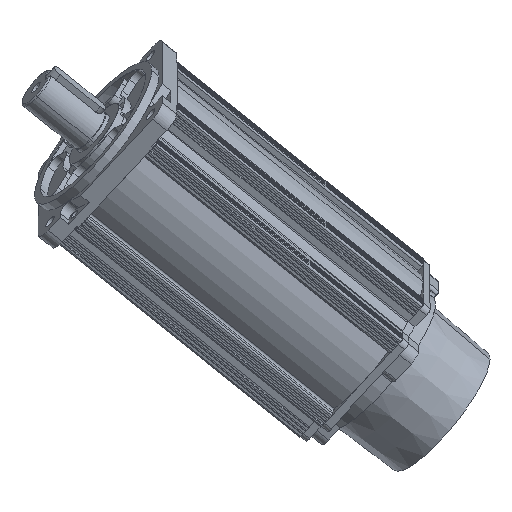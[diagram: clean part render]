
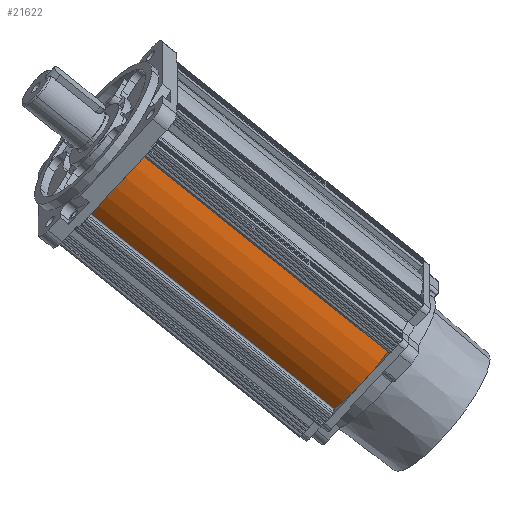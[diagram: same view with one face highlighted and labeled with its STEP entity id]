
A CAD part, top view. The second image highlights one B-rep face of the part: STEP entity #21622.
In plain terms, the highlighted cylindrical face has radius 50 mm (diameter 100 mm), a partial arc.
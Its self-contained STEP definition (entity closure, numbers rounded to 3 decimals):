
#462 = CARTESIAN_POINT ( 'NONE',  ( 255.767, -138.326, 45.914 ) ) ;
#1652 = CIRCLE ( 'NONE', #15283, 50. ) ;
#1714 = AXIS2_PLACEMENT_3D ( 'NONE', #23681, #14072, #23772 ) ;
#1747 = ORIENTED_EDGE ( 'NONE', *, *, #10409, .F. ) ;
#2969 = FACE_OUTER_BOUND ( 'NONE', #14011, .T. ) ;
#4545 = CIRCLE ( 'NONE', #5247, 50. ) ;
#4608 = CARTESIAN_POINT ( 'NONE',  ( 139.867, -1.964, 53.445 ) ) ;
#5171 = VERTEX_POINT ( 'NONE', #18399 ) ;
#5247 = AXIS2_PLACEMENT_3D ( 'NONE', #15946, #8585, #16201 ) ;
#6848 = ORIENTED_EDGE ( 'NONE', *, *, #20031, .T. ) ;
#7122 = LINE ( 'NONE', #462, #18383 ) ;
#7160 = CARTESIAN_POINT ( 'NONE',  ( 284.007, -108.188, 58.365 ) ) ;
#8050 = CYLINDRICAL_SURFACE ( 'NONE', #1714, 50. ) ;
#8442 = DIRECTION ( 'NONE',  ( 0.655, 0.699, 0.289 ) ) ;
#8517 = CARTESIAN_POINT ( 'NONE',  ( 284.007, -108.188, 58.365 ) ) ;
#8585 = DIRECTION ( 'NONE',  ( -0.756, 0.605, 0.25 ) ) ;
#9474 = EDGE_CURVE ( 'NONE', #24400, #5171, #7122, .T. ) ;
#9596 = VERTEX_POINT ( 'NONE', #7160 ) ;
#10409 = EDGE_CURVE ( 'NONE', #24400, #15184, #1652, .T. ) ;
#13932 = DIRECTION ( 'NONE',  ( -0.756, 0.605, 0.25 ) ) ;
#14011 = EDGE_LOOP ( 'NONE', ( #6848, #21985, #1747, #16419 ) ) ;
#14072 = DIRECTION ( 'NONE',  ( -0.756, 0.605, 0.25 ) ) ;
#15184 = VERTEX_POINT ( 'NONE', #16064 ) ;
#15283 = AXIS2_PLACEMENT_3D ( 'NONE', #4608, #17558, #8442 ) ;
#15946 = CARTESIAN_POINT ( 'NONE',  ( 269.887, -106.032, 10.449 ) ) ;
#16064 = CARTESIAN_POINT ( 'NONE',  ( 153.987, -4.12, 101.362 ) ) ;
#16201 = DIRECTION ( 'NONE',  ( 0.655, 0.699, 0.289 ) ) ;
#16419 = ORIENTED_EDGE ( 'NONE', *, *, #9474, .T. ) ;
#17558 = DIRECTION ( 'NONE',  ( -0.756, 0.605, 0.25 ) ) ;
#18154 = CARTESIAN_POINT ( 'NONE',  ( 125.747, -34.257, 88.91 ) ) ;
#18383 = VECTOR ( 'NONE', #19589, 1000. ) ;
#18399 = CARTESIAN_POINT ( 'NONE',  ( 255.767, -138.326, 45.914 ) ) ;
#18574 = LINE ( 'NONE', #8517, #18853 ) ;
#18853 = VECTOR ( 'NONE', #13932, 1000. ) ;
#18859 = EDGE_CURVE ( 'NONE', #9596, #15184, #18574, .T. ) ;
#19589 = DIRECTION ( 'NONE',  ( 0.756, -0.605, -0.25 ) ) ;
#20031 = EDGE_CURVE ( 'NONE', #5171, #9596, #4545, .T. ) ;
#21622 = ADVANCED_FACE ( 'NONE', ( #2969 ), #8050, .T. ) ;
#21985 = ORIENTED_EDGE ( 'NONE', *, *, #18859, .T. ) ;
#23681 = CARTESIAN_POINT ( 'NONE',  ( 269.887, -106.032, 10.449 ) ) ;
#23772 = DIRECTION ( 'NONE',  ( 0.655, 0.699, 0.289 ) ) ;
#24400 = VERTEX_POINT ( 'NONE', #18154 ) ;
